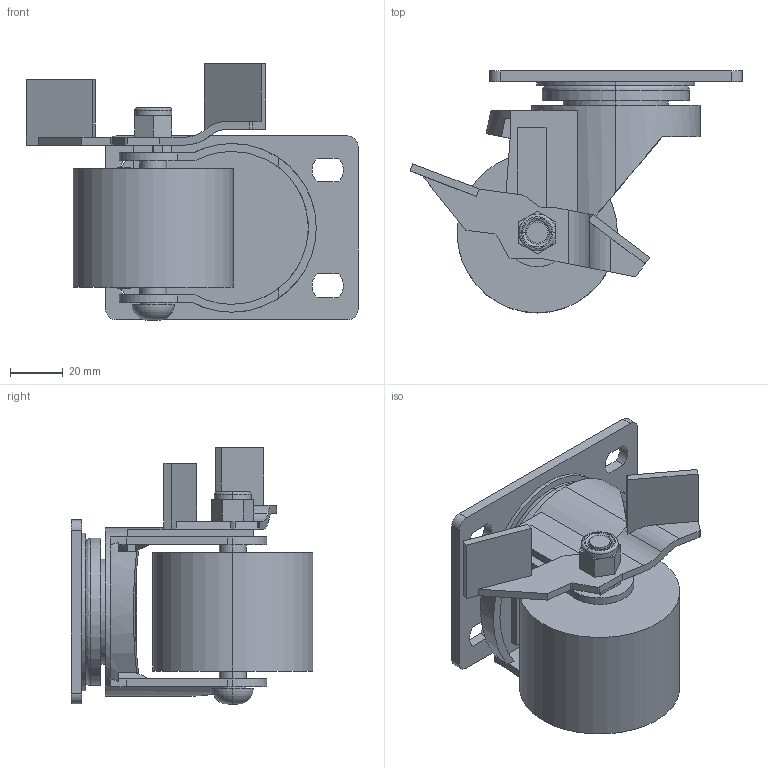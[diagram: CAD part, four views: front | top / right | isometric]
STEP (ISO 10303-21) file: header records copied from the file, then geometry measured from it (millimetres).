
FILE_DESCRIPTION (( 'STEP AP203' ), '1' );
FILE_NAME ('DYP-B6192.STEP', '2021-08-09T08:30:08', ( '' ), ( '' ), 'SwSTEP 2.0', 'SolidWorks 2017', '' );
FILE_SCHEMA (( 'CONFIG_CONTROL_DESIGN' ));
Length unit declared in the file: millimetre
Products named in the file (1): DYP-B6192
Bounding box: 126.32 x 92 x 97.7 mm (x, y, z)
Volume: 225400.1 mm3; surface area: 57731.7 mm2
Topology: 1 solids, 1 shells, 161 faces, 416 edges, 272 vertices
Faces by surface type: plane 101, cylinder 52, bspline 6, torus 2
Entity records: 5362 total; most frequent: CARTESIAN_POINT 1378, ORIENTED_EDGE 832, DIRECTION 785, EDGE_CURVE 416, VECTOR 275, LINE 275, VERTEX_POINT 272, AXIS2_PLACEMENT_3D 255
